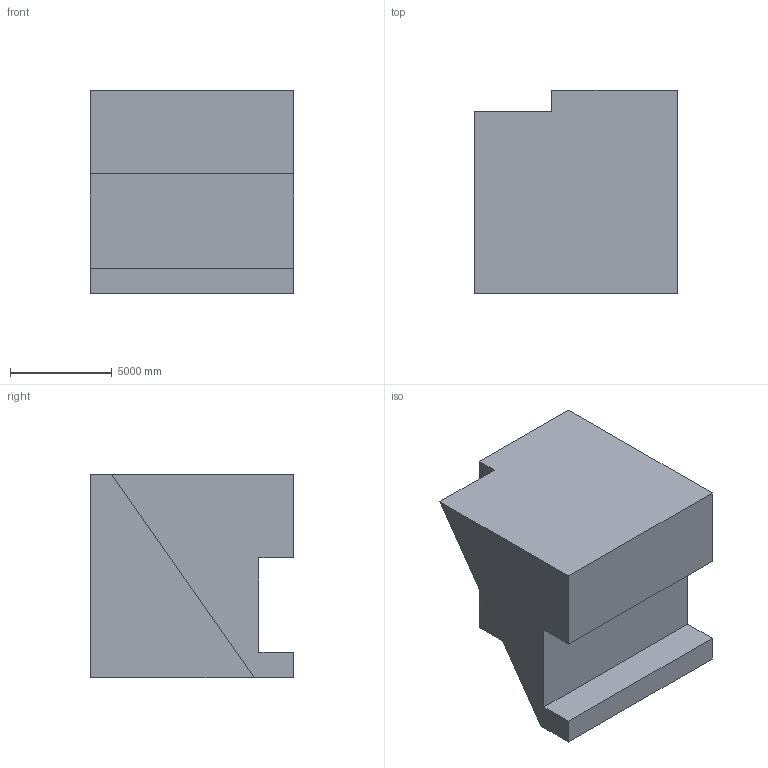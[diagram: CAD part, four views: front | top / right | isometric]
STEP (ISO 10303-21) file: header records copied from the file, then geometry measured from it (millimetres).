
FILE_DESCRIPTION (( 'STEP AP203' ), '1' );
FILE_NAME ('24.STEP', '2022-07-28T13:25:59', ( 'user' ), ( '' ), 'SwSTEP 2.0', 'SolidWorks 2021', '' );
FILE_SCHEMA (( 'CONFIG_CONTROL_DESIGN' ));
Length unit declared in the file: centimetre
Products named in the file (1): 24
Bounding box: 10000 x 10000 x 10000 mm (x, y, z)
Volume: 747565041156.7 mm3; surface area: 592129467 mm2
Topology: 1 solids, 1 shells, 12 faces, 30 edges, 20 vertices
Faces by surface type: plane 12
Entity records: 431 total; most frequent: CARTESIAN_POINT 63, ORIENTED_EDGE 60, DIRECTION 56, LINE 30, VECTOR 30, EDGE_CURVE 30, VERTEX_POINT 20, AXIS2_PLACEMENT_3D 13
